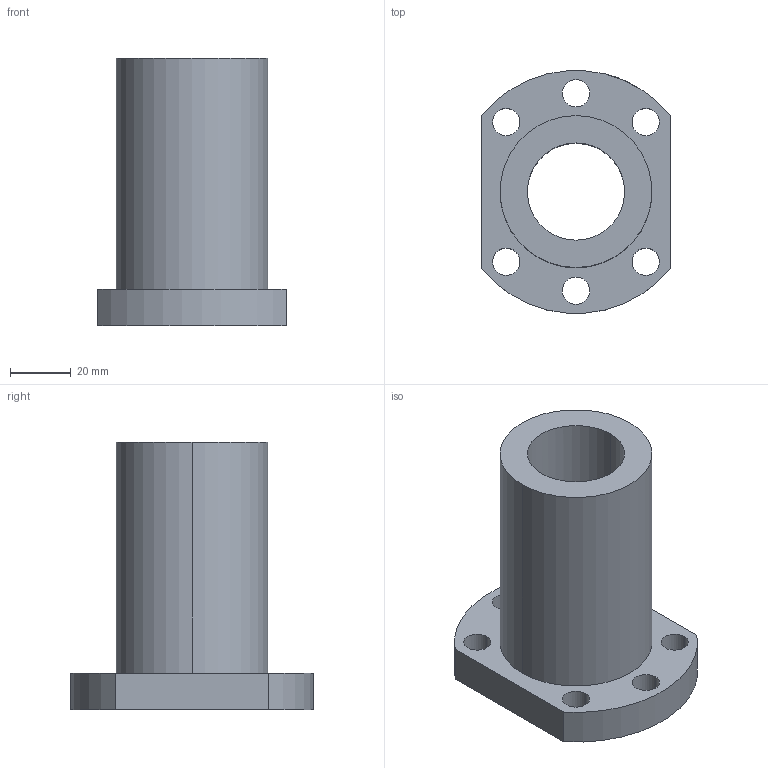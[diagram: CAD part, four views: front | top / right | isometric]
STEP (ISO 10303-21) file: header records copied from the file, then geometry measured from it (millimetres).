
FILE_DESCRIPTION((''),'2;1');
FILE_NAME('A11YIUA1','2018-09-06T',('chw'),(''),'PRO/ENGINEER BY PARAMETRIC TECHNOLOGY CORPORATION, 2012200','PRO/ENGINEER BY PARAMETRIC TECHNOLOGY CORPORATION, 2012200','');
FILE_SCHEMA(('CONFIG_CONTROL_DESIGN'));
Length unit declared in the file: millimetre
Products named in the file (1): A11YIUA1
Bounding box: 62 x 79.74 x 88 mm (x, y, z)
Volume: 126048.6 mm3; surface area: 32571.3 mm2
Topology: 1 solids, 1 shells, 25 faces, 66 edges, 44 vertices
Faces by surface type: cylinder 20, plane 5
Entity records: 912 total; most frequent: CARTESIAN_POINT 189, DIRECTION 148, ORIENTED_EDGE 132, EDGE_CURVE 66, AXIS2_PLACEMENT_3D 61, VERTEX_POINT 44, EDGE_LOOP 42, CIRCLE 36
